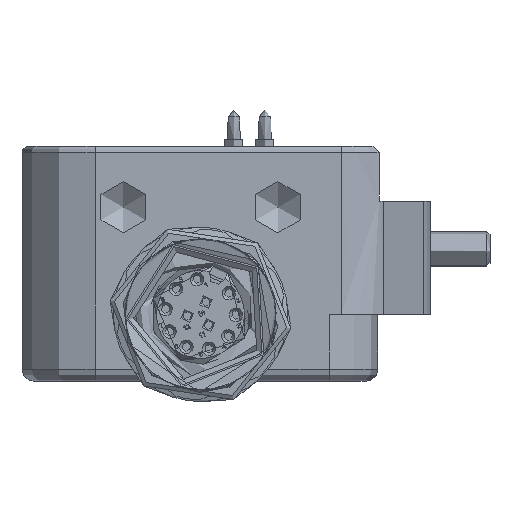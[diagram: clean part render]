
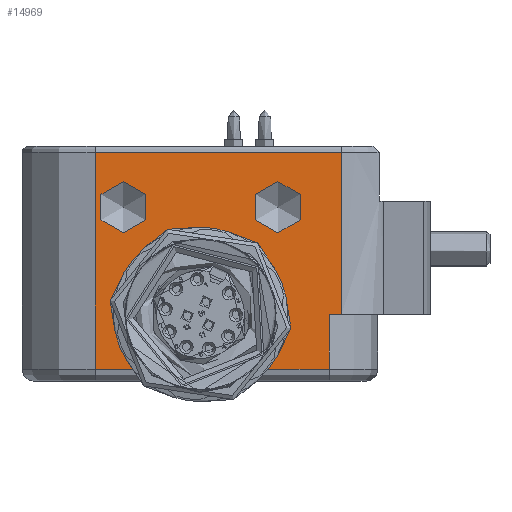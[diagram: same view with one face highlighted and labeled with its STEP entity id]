
A CAD part, left-side view. The second image highlights one B-rep face of the part: STEP entity #14969.
In plain terms, the highlighted planar face has unit normal (-1, 0, 0).
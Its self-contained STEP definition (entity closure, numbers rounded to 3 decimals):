
#765=FACE_BOUND('',#2492,.T.);
#766=FACE_BOUND('',#2493,.T.);
#767=FACE_BOUND('',#2494,.T.);
#1016=PLANE('',#16229);
#1547=FACE_OUTER_BOUND('',#2491,.T.);
#2491=EDGE_LOOP('',(#10914,#10915,#10916,#10917,#10918,#10919));
#2492=EDGE_LOOP('',(#10920,#10921));
#2493=EDGE_LOOP('',(#10922,#10923));
#2494=EDGE_LOOP('',(#10924,#10925));
#3449=LINE('',#23038,#4427);
#3458=LINE('',#23074,#4436);
#3473=LINE('',#23182,#4451);
#3509=LINE('',#23317,#4487);
#3510=LINE('',#23320,#4488);
#3511=LINE('',#23321,#4489);
#4427=VECTOR('',#18622,10.);
#4436=VECTOR('',#18665,10.);
#4451=VECTOR('',#18746,10.);
#4487=VECTOR('',#18880,10.);
#4488=VECTOR('',#18885,10.);
#4489=VECTOR('',#18886,10.);
#5432=CIRCLE('',#16230,4.4);
#5433=CIRCLE('',#16231,4.4);
#5434=CIRCLE('',#16232,2.1);
#5435=CIRCLE('',#16233,2.1);
#5436=CIRCLE('',#16234,2.1);
#5437=CIRCLE('',#16235,2.1);
#6271=VERTEX_POINT('',#22928);
#6291=VERTEX_POINT('',#23036);
#6301=VERTEX_POINT('',#23072);
#6331=VERTEX_POINT('',#23175);
#6333=VERTEX_POINT('',#23180);
#6383=VERTEX_POINT('',#23316);
#6384=VERTEX_POINT('',#23322);
#6385=VERTEX_POINT('',#23323);
#6386=VERTEX_POINT('',#23326);
#6387=VERTEX_POINT('',#23327);
#6388=VERTEX_POINT('',#23330);
#6389=VERTEX_POINT('',#23331);
#7932=EDGE_CURVE('',#6291,#6271,#3449,.T.);
#7950=EDGE_CURVE('',#6301,#6291,#3458,.T.);
#7988=EDGE_CURVE('',#6333,#6331,#3473,.T.);
#8056=EDGE_CURVE('',#6331,#6383,#3509,.T.);
#8058=EDGE_CURVE('',#6271,#6333,#3510,.T.);
#8059=EDGE_CURVE('',#6301,#6383,#3511,.T.);
#8060=EDGE_CURVE('',#6384,#6385,#5432,.T.);
#8061=EDGE_CURVE('',#6385,#6384,#5433,.T.);
#8062=EDGE_CURVE('',#6386,#6387,#5434,.T.);
#8063=EDGE_CURVE('',#6387,#6386,#5435,.T.);
#8064=EDGE_CURVE('',#6388,#6389,#5436,.T.);
#8065=EDGE_CURVE('',#6389,#6388,#5437,.T.);
#10914=ORIENTED_EDGE('',*,*,#8058,.F.);
#10915=ORIENTED_EDGE('',*,*,#7932,.F.);
#10916=ORIENTED_EDGE('',*,*,#7950,.F.);
#10917=ORIENTED_EDGE('',*,*,#8059,.T.);
#10918=ORIENTED_EDGE('',*,*,#8056,.F.);
#10919=ORIENTED_EDGE('',*,*,#7988,.F.);
#10920=ORIENTED_EDGE('',*,*,#8060,.F.);
#10921=ORIENTED_EDGE('',*,*,#8061,.F.);
#10922=ORIENTED_EDGE('',*,*,#8062,.T.);
#10923=ORIENTED_EDGE('',*,*,#8063,.T.);
#10924=ORIENTED_EDGE('',*,*,#8064,.T.);
#10925=ORIENTED_EDGE('',*,*,#8065,.T.);
#14969=ADVANCED_FACE('',(#1547,#765,#766,#767),#1016,.T.);
#16229=AXIS2_PLACEMENT_3D('',#23319,#18883,#18884);
#16230=AXIS2_PLACEMENT_3D('',#23324,#18887,#18888);
#16231=AXIS2_PLACEMENT_3D('',#23325,#18889,#18890);
#16232=AXIS2_PLACEMENT_3D('',#23328,#18891,#18892);
#16233=AXIS2_PLACEMENT_3D('',#23329,#18893,#18894);
#16234=AXIS2_PLACEMENT_3D('',#23332,#18895,#18896);
#16235=AXIS2_PLACEMENT_3D('',#23333,#18897,#18898);
#18622=DIRECTION('',(0.,1.,0.));
#18665=DIRECTION('',(0.,0.,-1.));
#18746=DIRECTION('',(0.,-1.,0.));
#18880=DIRECTION('',(0.,0.,-1.));
#18883=DIRECTION('center_axis',(-1.,0.,0.));
#18884=DIRECTION('ref_axis',(0.,0.,
1.));
#18885=DIRECTION('',(0.,0.,1.));
#18886=DIRECTION('',(0.,-1.,0.));
#18887=DIRECTION('center_axis',(-1.,0.,0.));
#18888=DIRECTION('ref_axis',(0.,0.,
-1.));
#18889=DIRECTION('center_axis',(-1.,0.,0.));
#18890=DIRECTION('ref_axis',(0.,0.,
-1.));
#18891=DIRECTION('center_axis',(1.,0.,0.));
#18892=DIRECTION('ref_axis',(0.,0.,
1.));
#18893=DIRECTION('center_axis',(1.,0.,0.));
#18894=DIRECTION('ref_axis',(0.,0.,
1.));
#18895=DIRECTION('center_axis',(1.,0.,0.));
#18896=DIRECTION('ref_axis',(0.,0.,
1.));
#18897=DIRECTION('center_axis',(1.,0.,0.));
#18898=DIRECTION('ref_axis',(0.,0.,
1.));
#22928=CARTESIAN_POINT('',(-26.,8.65,-4.5));
#23036=CARTESIAN_POINT('',(-26.,-10.55,-4.5));
#23038=CARTESIAN_POINT('',(-26.,-7.25,-4.5));
#23072=CARTESIAN_POINT('',(-26.,-10.55,0.));
#23074=CARTESIAN_POINT('',(-26.,-10.55,-5.5));
#23175=CARTESIAN_POINT('',(-26.,-11.541,13.3));
#23180=CARTESIAN_POINT('',(-26.,8.65,13.3));
#23182=CARTESIAN_POINT('',(-26.,-10.475,13.3));
#23316=CARTESIAN_POINT('',(-26.,-11.541,0.));
#23317=CARTESIAN_POINT('',(-26.,-11.541,0.));
#23319=CARTESIAN_POINT('Origin',(-26.,-18.85,0.));
#23320=CARTESIAN_POINT('',(-26.,8.65,-5.5));
#23321=CARTESIAN_POINT('',(-26.,14.65,0.));
#23322=CARTESIAN_POINT('',(-26.,4.4,0.));
#23323=CARTESIAN_POINT('',(-26.,0.,4.4));
#23324=CARTESIAN_POINT('Origin',(-26.,0.,
0.));
#23325=CARTESIAN_POINT('Origin',(-26.,0.,
0.));
#23326=CARTESIAN_POINT('',(-26.,-6.35,10.9));
#23327=CARTESIAN_POINT('',(-26.,-6.35,6.7));
#23328=CARTESIAN_POINT('Origin',(-26.,-6.35,8.8));
#23329=CARTESIAN_POINT('Origin',(-26.,-6.35,8.8));
#23330=CARTESIAN_POINT('',(-26.,6.35,10.9));
#23331=CARTESIAN_POINT('',(-26.,6.35,6.7));
#23332=CARTESIAN_POINT('Origin',(-26.,6.35,8.8));
#23333=CARTESIAN_POINT('Origin',(-26.,6.35,8.8));
